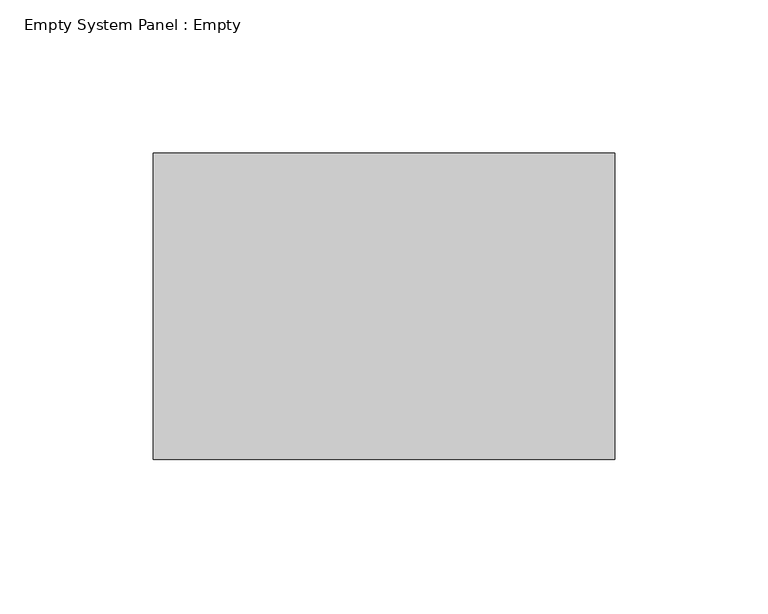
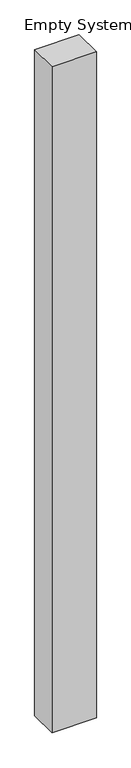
"""IFC4 building model written with IfcOpenShell, lengths in millimetres: plate geometry, Empty System Panel : Empty."""

from ifc_helpers import new_model, si_unit, origin, origin_with_axes, place, context, project, spatial, polyline, outline, extrude, source, transform, mapped, element, save


def empty_system_panel_empty_b25575e7(model_context):
    return source(origin(), model_context, "Body", "SweptSolid", [
        extrude(outline(polyline([(75.2735709, -50.0), (-75.2735709, -50.0), (-75.2735709, 50.0), (75.2735709, 50.0), (75.2735709, -50.0)])), origin_with_axes(), (0.0, 0.0, 1.0), 2380.0),
    ])


if __name__ == "__main__":
    model = new_model("IFC4")
    model_context = context("Model", 3, world=origin())
    ifc_project = project(units=[si_unit("LENGTHUNIT", "METRE", prefix="MILLI")], contexts=[model_context])
    site = spatial("IfcSite", under=ifc_project)
    building = spatial("IfcBuilding", under=site)
    placement = place(None, origin())
    empty_system_panel_empty_shape = empty_system_panel_empty_b25575e7(model_context)
    element("IfcPlate", 1, ObjectType="Empty System Panel : Empty", at=placement, inside=building, context=model_context, shape_type="MappedRepresentation", body=[
        mapped(empty_system_panel_empty_shape, transform((0.0, 0.0, 0.0), x_axis=(1.0, 0.0, 0.0), y_axis=(0.0, 1.0, 0.0), z_axis=(0.0, 0.0, 1.0))),
    ])
    save(model, "model.ifc")
